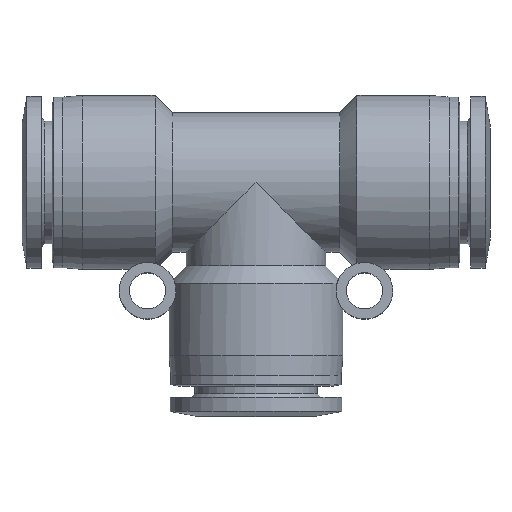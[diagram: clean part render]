
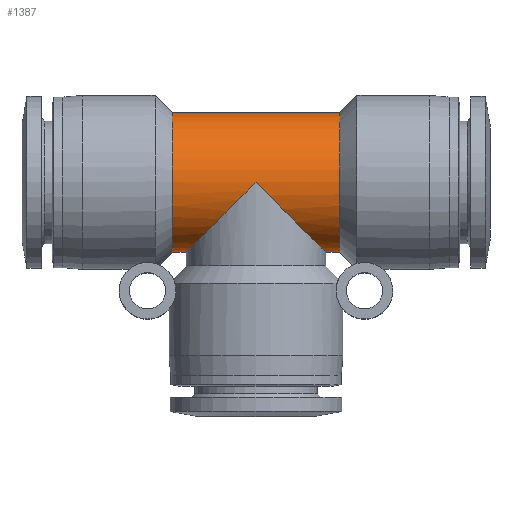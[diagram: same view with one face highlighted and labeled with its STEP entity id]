
A CAD part, top view. The second image highlights one B-rep face of the part: STEP entity #1387.
In plain terms, the highlighted cylindrical face has radius 10.2 mm (diameter 20.4 mm), a partial arc.
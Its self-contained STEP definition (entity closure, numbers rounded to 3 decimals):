
#3 = DIRECTION ( 'NONE',  ( 1., 0., 0. ) ) ;
#54 = EDGE_LOOP ( 'NONE', ( #1770, #2516, #2992, #2072, #1984, #1205, #844 ) ) ;
#135 = CARTESIAN_POINT ( 'NONE',  ( 6.125, -10.2, 0. ) ) ;
#257 = VERTEX_POINT ( 'NONE', #2304 ) ;
#266 = DIRECTION ( 'NONE',  ( 1., 0., 0. ) ) ;
#270 = AXIS2_PLACEMENT_3D ( 'NONE', #1945, #652, #2974 ) ;
#284 = CARTESIAN_POINT ( 'NONE',  ( 12.25, -10.2, 0. ) ) ;
#341 = VECTOR ( 'NONE', #3331, 1000. ) ;
#386 = CIRCLE ( 'NONE', #1133, 10.2 ) ;
#458 = EDGE_CURVE ( 'NONE', #3025, #1566, #2460, .T. ) ;
#493 = EDGE_CURVE ( 'NONE', #518, #912, #1967, .T. ) ;
#518 = VERTEX_POINT ( 'NONE', #1033 ) ;
#534 = LINE ( 'NONE', #2845, #341 ) ;
#547 =( BOUNDED_CURVE ( )  B_SPLINE_CURVE ( 3, ( #1198, #1435, #2472, #692 ),
 .UNSPECIFIED., .F., .F. ) 
 B_SPLINE_CURVE_WITH_KNOTS ( ( 4, 4 ),
 ( 1.571, 3.142 ),
 .UNSPECIFIED. ) 
 CURVE ( )  GEOMETRIC_REPRESENTATION_ITEM ( )  RATIONAL_B_SPLINE_CURVE ( ( 1., 0.805, 0.805, 1. ) ) 
 REPRESENTATION_ITEM ( '' )  );
#652 = DIRECTION ( 'NONE',  ( 1., 0., 0. ) ) ;
#692 = CARTESIAN_POINT ( 'NONE',  ( 10.2, -10.2, 0. ) ) ;
#766 = CARTESIAN_POINT ( 'NONE',  ( 6.125, -10.2, 0. ) ) ;
#778 = DIRECTION ( 'NONE',  ( 0., 1., 0. ) ) ;
#844 = ORIENTED_EDGE ( 'NONE', *, *, #2093, .F. ) ;
#902 = FACE_OUTER_BOUND ( 'NONE', #54, .T. ) ;
#912 = VERTEX_POINT ( 'NONE', #284 ) ;
#979 = CARTESIAN_POINT ( 'NONE',  ( -12.25, -10.2, 0. ) ) ;
#1005 = CARTESIAN_POINT ( 'NONE',  ( 12.25, 0., 0. ) ) ;
#1006 = CARTESIAN_POINT ( 'NONE',  ( -10.2, -10.2, 0. ) ) ;
#1023 = CARTESIAN_POINT ( 'NONE',  ( -12.25, 10.2, 0. ) ) ;
#1033 = CARTESIAN_POINT ( 'NONE',  ( 12.25, 10.2, 0. ) ) ;
#1091 = AXIS2_PLACEMENT_3D ( 'NONE', #1005, #2045, #778 ) ;
#1133 = AXIS2_PLACEMENT_3D ( 'NONE', #1794, #266, #1810 ) ;
#1198 = CARTESIAN_POINT ( 'NONE',  ( 0., 0., 10.2 ) ) ;
#1205 = ORIENTED_EDGE ( 'NONE', *, *, #493, .F. ) ;
#1209 = EDGE_CURVE ( 'NONE', #2043, #3025, #386, .T. ) ;
#1387 = ADVANCED_FACE ( 'NONE', ( #902 ), #2698, .T. ) ;
#1435 = CARTESIAN_POINT ( 'NONE',  ( 5.975, -5.975, 10.2 ) ) ;
#1451 = CARTESIAN_POINT ( 'NONE',  ( -10.2, -10.2, 0. ) ) ;
#1528 = VECTOR ( 'NONE', #3, 1000. ) ;
#1566 = VERTEX_POINT ( 'NONE', #1006 ) ;
#1612 = EDGE_CURVE ( 'NONE', #2686, #912, #2059, .T. ) ;
#1693 = CARTESIAN_POINT ( 'NONE',  ( -10.2, -10.2, 5.975 ) ) ;
#1770 = ORIENTED_EDGE ( 'NONE', *, *, #1209, .T. ) ;
#1794 = CARTESIAN_POINT ( 'NONE',  ( -12.25, 0., 0. ) ) ;
#1807 = DIRECTION ( 'NONE',  ( 1., 0., 0. ) ) ;
#1810 = DIRECTION ( 'NONE',  ( 0., 1., 0. ) ) ;
#1892 = EDGE_CURVE ( 'NONE', #257, #2686, #547, .T. ) ;
#1945 = CARTESIAN_POINT ( 'NONE',  ( 6.125, 0., 0. ) ) ;
#1949 = CARTESIAN_POINT ( 'NONE',  ( 0., 0., 10.2 ) ) ;
#1967 = CIRCLE ( 'NONE', #1091, 10.2 ) ;
#1984 = ORIENTED_EDGE ( 'NONE', *, *, #1612, .T. ) ;
#1995 = EDGE_CURVE ( 'NONE', #1566, #257, #3110, .T. ) ;
#2043 = VERTEX_POINT ( 'NONE', #1023 ) ;
#2045 = DIRECTION ( 'NONE',  ( 1., 0., 0. ) ) ;
#2059 = LINE ( 'NONE', #766, #3174 ) ;
#2072 = ORIENTED_EDGE ( 'NONE', *, *, #1892, .T. ) ;
#2093 = EDGE_CURVE ( 'NONE', #2043, #518, #534, .T. ) ;
#2123 = CARTESIAN_POINT ( 'NONE',  ( 10.2, -10.2, 0. ) ) ;
#2304 = CARTESIAN_POINT ( 'NONE',  ( 0., 0., 10.2 ) ) ;
#2460 = LINE ( 'NONE', #135, #1528 ) ;
#2472 = CARTESIAN_POINT ( 'NONE',  ( 10.2, -10.2, 5.975 ) ) ;
#2516 = ORIENTED_EDGE ( 'NONE', *, *, #458, .T. ) ;
#2686 = VERTEX_POINT ( 'NONE', #2123 ) ;
#2698 = CYLINDRICAL_SURFACE ( 'NONE', #270, 10.2 ) ;
#2845 = CARTESIAN_POINT ( 'NONE',  ( 6.125, 10.2, 0. ) ) ;
#2974 = DIRECTION ( 'NONE',  ( 0., 1., 0. ) ) ;
#2992 = ORIENTED_EDGE ( 'NONE', *, *, #1995, .T. ) ;
#3025 = VERTEX_POINT ( 'NONE', #979 ) ;
#3110 =( BOUNDED_CURVE ( )  B_SPLINE_CURVE ( 3, ( #1451, #1693, #3243, #1949 ),
 .UNSPECIFIED., .F., .F. ) 
 B_SPLINE_CURVE_WITH_KNOTS ( ( 4, 4 ),
 ( 0., 1.571 ),
 .UNSPECIFIED. ) 
 CURVE ( )  GEOMETRIC_REPRESENTATION_ITEM ( )  RATIONAL_B_SPLINE_CURVE ( ( 1., 0.805, 0.805, 1. ) ) 
 REPRESENTATION_ITEM ( '' )  );
#3174 = VECTOR ( 'NONE', #1807, 1000. ) ;
#3243 = CARTESIAN_POINT ( 'NONE',  ( -5.975, -5.975, 10.2 ) ) ;
#3331 = DIRECTION ( 'NONE',  ( 1., 0., 0. ) ) ;
